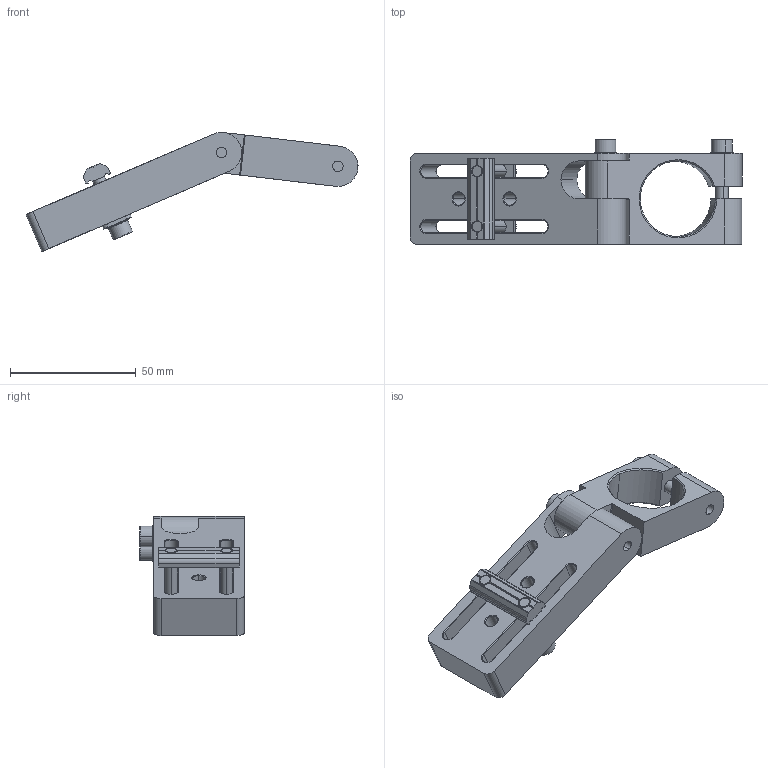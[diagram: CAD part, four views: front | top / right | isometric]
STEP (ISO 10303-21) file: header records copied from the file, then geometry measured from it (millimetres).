
FILE_DESCRIPTION (( 'STEP AP214' ), '1' );
FILE_NAME ('SMBE3-3050T.STEP', '2022-12-14T03:46:29', ( '' ), ( '' ), 'SwSTEP 2.0', 'SolidWorks 2018', '' );
FILE_SCHEMA (( 'AUTOMOTIVE_DESIGN' ));
Length unit declared in the file: millimetre
Products named in the file (1): SMBE3-3050T
Bounding box: 131.75 x 41.45 x 47.3 mm (x, y, z)
Volume: 56574.9 mm3; surface area: 25649.8 mm2
Topology: 12 solids, 12 shells, 897 faces, 2573 edges, 1696 vertices
Faces by surface type: plane 743, cylinder 96, cone 58
Entity records: 39693 total; most frequent: CARTESIAN_POINT 5365, DIRECTION 5223, ORIENTED_EDGE 5146, EDGE_CURVE 2573, AXIS2_PLACEMENT_3D 1786, VERTEX_POINT 1696, VECTOR 1651, LINE 1651
